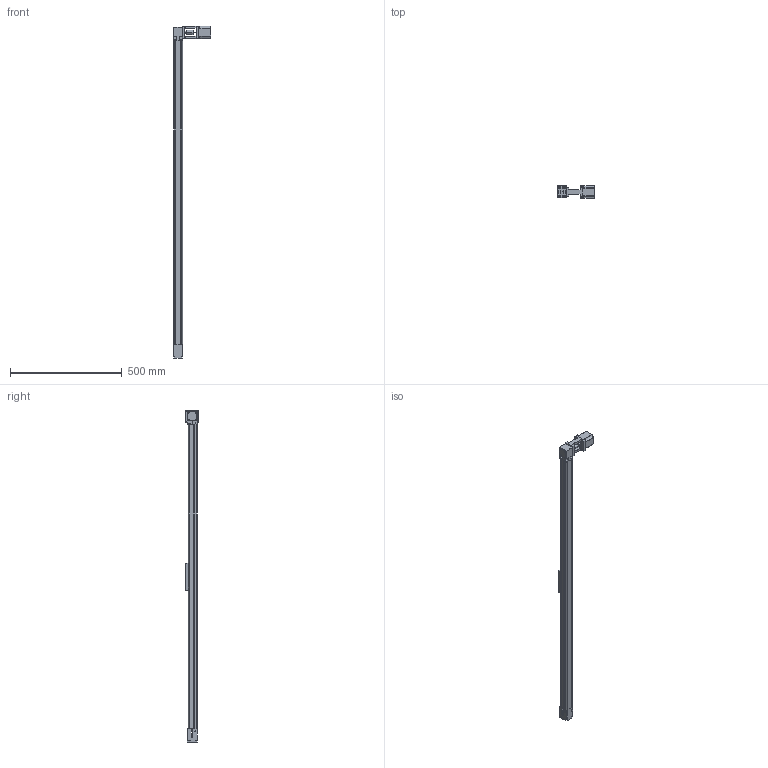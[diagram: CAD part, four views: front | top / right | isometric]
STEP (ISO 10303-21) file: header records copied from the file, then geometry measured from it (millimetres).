
FILE_DESCRIPTION (( 'STEP AP203' ), '1' );
FILE_NAME ('MDL40B-1200.STEP', '2013-11-02T02:32:13', ( '微软用户' ), ( '微软中国' ), 'SwSTEP 2.0', 'SolidWorks 2010', '' );
FILE_SCHEMA (( 'CONFIG_CONTROL_DESIGN' ));
Length unit declared in the file: millimetre
Products named in the file (1): MDL40B-1200
Bounding box: 170 x 57.05 x 1486.05 mm (x, y, z)
Volume: 2292434.7 mm3; surface area: 465809.4 mm2
Topology: 1 solids, 3 shells, 522 faces, 1331 edges, 811 vertices
Faces by surface type: plane 284, cylinder 192, cone 24, bspline 10, sphere 8, torus 4
Entity records: 17108 total; most frequent: CARTESIAN_POINT 4333, DIRECTION 2683, ORIENTED_EDGE 2610, EDGE_CURVE 1305, AXIS2_PLACEMENT_3D 913, LINE 857, VECTOR 857, VERTEX_POINT 811
